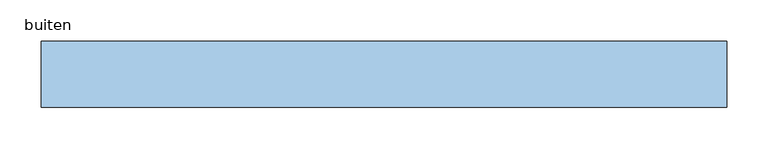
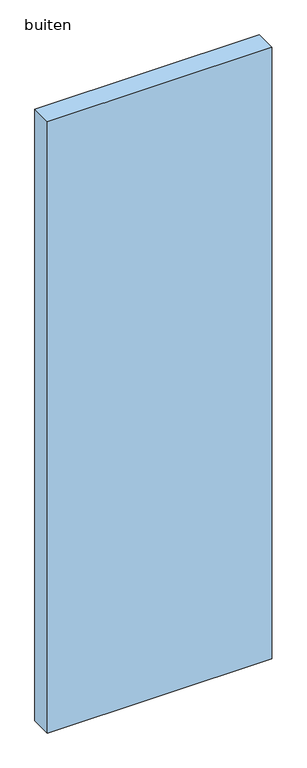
"""IFC4 building model written with IfcOpenShell, lengths in millimetres: window geometry, RBS_3-_WI_pui_paneel_SH : buiten."""

import ifcopenshell
import ifcopenshell.guid

model = None  # the IFC model being written
_history = None  # IfcOwnerHistory: only IFC2X3 demands one
_inside = {}  # id of a spatial element -> (the spatial element, [elements in it])
_under = {}  # id of a project, library or spatial element -> (it, [spatial elements below it])
_declared = {}  # id of a project -> (the project, [libraries it declares])
_typed = {}  # id of a type object -> (the type object, [elements of that type])
_made_of = {}  # id of a material, layer set ... -> (it, [elements and type objects made of it])


def new_model(schema):
    """Start an empty IFC model of exactly this schema.

    Asked for "IFC4X3", IfcOpenShell would pick the latest addendum, in which some entities
    have other attributes; the version numbers below select the first issue.
    IFC2X3 requires an IfcOwnerHistory on every rooted entity: one is made here for all.
    """
    global model, _history
    if schema == "IFC4X3":
        model = ifcopenshell.file(schema_version=(4, 3, 0, 0))
    else:
        model = ifcopenshell.file(schema=schema)
    _inside.clear()
    _under.clear()
    _declared.clear()
    _typed.clear()
    _made_of.clear()
    _history = None
    if model.schema == "IFC2X3":
        org = make("IfcOrganization", Name="unknown")
        user = make(
            "IfcPersonAndOrganization",
            ThePerson=make("IfcPerson", FamilyName="unknown"),
            TheOrganization=org,
        )
        app = make(
            "IfcApplication",
            ApplicationDeveloper=org,
            Version="unknown",
            ApplicationFullName="unknown",
            ApplicationIdentifier="unknown",
        )
        _history = make(
            "IfcOwnerHistory",
            OwningUser=user,
            OwningApplication=app,
            ChangeAction="ADDED",
            CreationDate=0,
        )
    return model


def make(cls, **values):
    """One entity of the class cls with the attributes given. An attribute that is None is left unset."""
    return model.create_entity(
        cls, **{name: value for name, value in values.items() if value is not None}
    )


def rooted(cls, **values):
    """An entity with a GlobalId (a new one), such as an element, a storey or a relation."""
    return make(cls, GlobalId=ifcopenshell.guid.new(), OwnerHistory=_history, **values)


def si_unit(unit_type, name, prefix=None):
    """IfcSIUnit, for example si_unit("LENGTHUNIT", "METRE", prefix="MILLI")."""
    return make("IfcSIUnit", UnitType=unit_type, Prefix=prefix, Name=name)


def assignment(units):
    """IfcUnitAssignment: the units of a project."""
    return None if units is None else make("IfcUnitAssignment", Units=units)


def point(xyz):
    """IfcCartesianPoint."""
    return None if xyz is None else make("IfcCartesianPoint", Coordinates=xyz)


def direction(xyz):
    """IfcDirection."""
    return None if xyz is None else make("IfcDirection", DirectionRatios=xyz)


def frame(location, z_axis=None, x_axis=None):
    """IfcAxis2Placement3D, a coordinate frame: its origin and axes. An axis left out is left unset."""
    return make(
        "IfcAxis2Placement3D",
        Location=point(location),
        Axis=direction(z_axis),
        RefDirection=direction(x_axis),
    )


def origin():
    """The frame at (0, 0, 0) with its axes left unset."""
    return frame((0.0, 0.0, 0.0))


def origin_with_axes():
    """The frame at (0, 0, 0) with the z axis (0, 0, 1) and the x axis (1, 0, 0) written out."""
    return frame((0.0, 0.0, 0.0), z_axis=(0.0, 0.0, 1.0), x_axis=(1.0, 0.0, 0.0))


def place(relative_to, where):
    """IfcLocalPlacement: puts the frame where relative to a parent placement (None: the world)."""
    return make(
        "IfcLocalPlacement", PlacementRelTo=relative_to, RelativePlacement=where
    )


def context(
    kind, dimensions, precision=None, world=None, true_north=None, identifier=None
):
    """IfcGeometricRepresentationContext, for example the 3D "Model" context."""
    return make(
        "IfcGeometricRepresentationContext",
        ContextIdentifier=identifier,
        ContextType=kind,
        CoordinateSpaceDimension=dimensions,
        Precision=precision,
        WorldCoordinateSystem=world,
        TrueNorth=true_north,
    )


def project(units=None, contexts=None):
    """IfcProject with its units and contexts."""
    return rooted(
        "IfcProject",
        Name="project",
        RepresentationContexts=contexts,
        UnitsInContext=assignment(units),
    )


def spatial(cls, under=None, at=None, **own):
    """A site, building, storey or space (cls), placed at a placement, below another one or the project."""
    s = rooted(cls, ObjectPlacement=at, **own)
    if under is not None:
        _under.setdefault(under.id(), (under, []))[1].append(s)
    return s


def polyline(points):
    """IfcPolyline through the points."""
    return make("IfcPolyline", Points=[point(p) for p in points])


def outline(outer, holes=None, kind="AREA"):
    """IfcArbitraryClosedProfileDef: a profile drawn as a closed curve; with holes, ...WithVoids."""
    if holes is None:
        return make("IfcArbitraryClosedProfileDef", ProfileType=kind, OuterCurve=outer)
    return make(
        "IfcArbitraryProfileDefWithVoids",
        ProfileType=kind,
        OuterCurve=outer,
        InnerCurves=holes,
    )


def extrude(swept, where, along, depth):
    """IfcExtrudedAreaSolid: the profile swept, set in the frame where, extruded along a direction by depth."""
    return make(
        "IfcExtrudedAreaSolid",
        SweptArea=swept,
        Position=where,
        ExtrudedDirection=direction(along),
        Depth=depth,
    )


def shape(context_of_items, identifier, shape_type, items):
    """IfcShapeRepresentation: the items that make up one representation, for example the "Body"."""
    return make(
        "IfcShapeRepresentation",
        ContextOfItems=context_of_items,
        RepresentationIdentifier=identifier,
        RepresentationType=shape_type,
        Items=items,
    )


def source(mapping_origin, context_of_items, identifier, shape_type, items):
    """IfcRepresentationMap: a shape defined once, which mapped items show again and again."""
    return make(
        "IfcRepresentationMap",
        MappingOrigin=mapping_origin,
        MappedRepresentation=shape(context_of_items, identifier, shape_type, items),
    )


def transform(
    local_origin,
    x_axis=None,
    y_axis=None,
    z_axis=None,
    scale=None,
    scale2=None,
    scale3=None,
    uniform=True,
):
    """IfcCartesianTransformationOperator3D, or its non-uniform kind. x_axis, y_axis, z_axis: its Axis1, 2, 3."""
    if uniform:
        return make(
            "IfcCartesianTransformationOperator3D",
            Axis1=direction(x_axis),
            Axis2=direction(y_axis),
            LocalOrigin=point(local_origin),
            Scale=scale,
            Axis3=direction(z_axis),
        )
    return make(
        "IfcCartesianTransformationOperator3DnonUniform",
        Axis1=direction(x_axis),
        Axis2=direction(y_axis),
        LocalOrigin=point(local_origin),
        Scale=scale,
        Axis3=direction(z_axis),
        Scale2=scale2,
        Scale3=scale3,
    )


def mapped(mapping_source, mapping_target):
    """IfcMappedItem: shows the shape of a source again, moved by a transform."""
    return make(
        "IfcMappedItem", MappingSource=mapping_source, MappingTarget=mapping_target
    )


def made_of(thing, what):
    """Note that an element or type object is made of a material, layer set ...; save() writes the relation."""
    if what is not None:
        _made_of.setdefault(what.id(), (what, []))[1].append(thing)
    return thing


def element(
    cls,
    number,
    at=None,
    inside=None,
    cuts=None,
    type_object=None,
    material=None,
    context=None,
    identifier="Body",
    shape_type=None,
    held_by="IfcProductDefinitionShape",
    body=None,
    shapes=None,
    **own,
):
    """One element of the class cls, such as IfcWall. Its Tag is "e" and its number.

    at: its placement. inside: the storey or other place that contains it. cuts: it is an
    opening in that element (IfcRelVoidsElement). A single representation is given by context,
    identifier, shape_type and body (its items); several are given by shapes. held_by: the class
    of the entity that holds the representations. save() writes the other relations.
    """
    e = rooted(cls, Tag="e%d" % number, ObjectPlacement=at, **own)
    if body is not None:
        shapes = [shape(context, identifier, shape_type, body)]
    if shapes is not None:
        e.Representation = make(held_by, Representations=shapes)
    if inside is not None:
        _inside.setdefault(inside.id(), (inside, []))[1].append(e)
    if cuts is not None:
        rooted(
            "IfcRelVoidsElement", RelatingBuildingElement=cuts, RelatedOpeningElement=e
        )
    if type_object is not None:
        _typed.setdefault(type_object.id(), (type_object, []))[1].append(e)
    return made_of(e, material)


def aggregate(whole, parts):
    """IfcRelAggregates: a whole, such as a stair, and the parts it consists of."""
    return rooted("IfcRelAggregates", RelatingObject=whole, RelatedObjects=parts)


def save(model, path):
    """Write the relations noted so far, then the file.

    IfcRelAggregates (storeys below a building ...), IfcRelContainedInSpatialStructure (elements
    in a storey), IfcRelDefinesByType, IfcRelAssociatesMaterial and IfcRelDeclares: one each for
    every whole, place, type object, material and project.
    """
    for whole, parts in _under.values():
        aggregate(whole, parts)
    for where, things in _inside.values():
        rooted(
            "IfcRelContainedInSpatialStructure",
            RelatedElements=things,
            RelatingStructure=where,
        )
    for kind, things in _typed.values():
        rooted("IfcRelDefinesByType", RelatedObjects=things, RelatingType=kind)
    for what, things in _made_of.values():
        rooted("IfcRelAssociatesMaterial", RelatedObjects=things, RelatingMaterial=what)
    for by, libraries in _declared.values():
        rooted("IfcRelDeclares", RelatingContext=by, RelatedDefinitions=libraries)
    model.write(path)


def buiten_ae65a613(model_context):
    return source(origin(), model_context, "Body", "SweptSolid", [
        extrude(outline(polyline([(415.0, -40.0), (-415.0, -40.0), (-415.0, 40.0), (415.0, 40.0), (415.0, -40.0)])), origin_with_axes(), (0.0, 0.0, 1.0), 2390.0),
    ])


if __name__ == "__main__":
    model = new_model("IFC4")
    model_context = context("Model", 3, world=origin())
    ifc_project = project(units=[si_unit("LENGTHUNIT", "METRE", prefix="MILLI")], contexts=[model_context])
    site = spatial("IfcSite", under=ifc_project)
    building = spatial("IfcBuilding", under=site)
    placement = place(None, origin())
    buiten_shape = buiten_ae65a613(model_context)
    element("IfcWindow", 1, ObjectType="RBS_3-_WI_pui_paneel_SH : buiten", at=placement, inside=building, context=model_context, shape_type="MappedRepresentation", body=[
        mapped(buiten_shape, transform((0.0, 0.0, 0.0), x_axis=(1.0, 0.0, 0.0), y_axis=(0.0, 1.0, 0.0), z_axis=(0.0, 0.0, 1.0))),
    ])
    save(model, "model.ifc")
